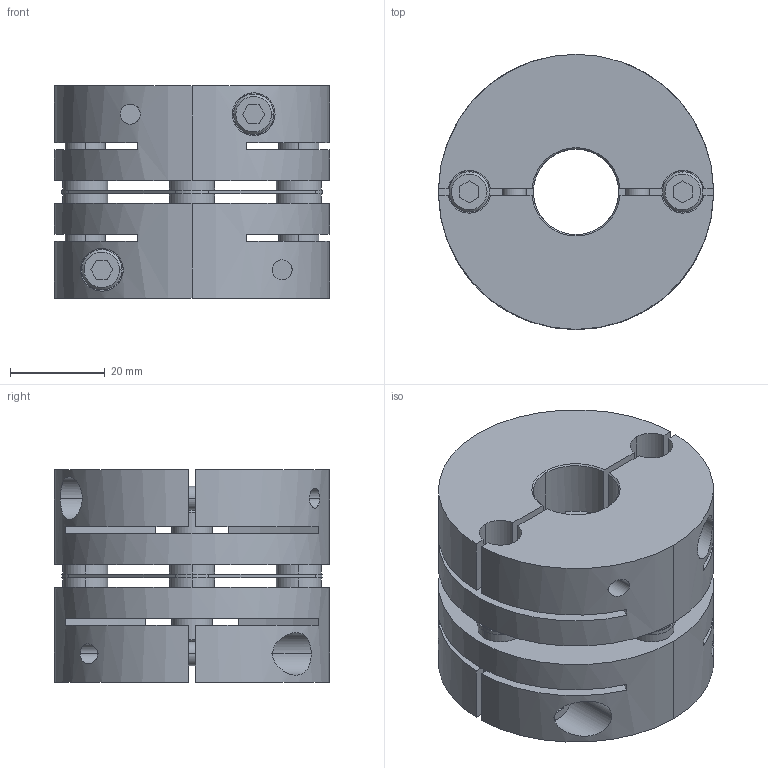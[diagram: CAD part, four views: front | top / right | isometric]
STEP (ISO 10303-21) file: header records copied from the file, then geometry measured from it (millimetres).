
FILE_DESCRIPTION((''),'2;1');
FILE_NAME('LAS-58C-18×22.stp','2015-10-15T14:53:51',(''),(''),'AutoCAD STEP 2000i','AutoCAD 2000i',', , ');
FILE_SCHEMA(('CONFIG_CONTROL_DESIGN'));
Length unit declared in the file: millimetre
Products named in the file (6): LAS-58C-12×19; 忣兜1; LA-5802-D19; LA-5802-D12-1; LA-5802-D12; LAS58-ITA
Assembly tree (5 placements, depth 2):
  LAS-58C-12×19
    忣兜1
    LA-5802-D19
    LA-5802-D12-1
    LA-5802-D12
    LAS58-ITA
Bounding box: 58 x 58 x 44.8 mm (x, y, z)
Volume: 84000.1 mm3; surface area: 32931.3 mm2
Topology: 1 solids, 1 shells, 238 faces, 618 edges, 404 vertices
Faces by surface type: plane 114, cylinder 96, cone 28
Entity records: 8213 total; most frequent: CARTESIAN_POINT 1988, DIRECTION 1316, ORIENTED_EDGE 1240, EDGE_CURVE 620, AXIS2_PLACEMENT_3D 484, VERTEX_POINT 404, VECTOR 348, LINE 348
